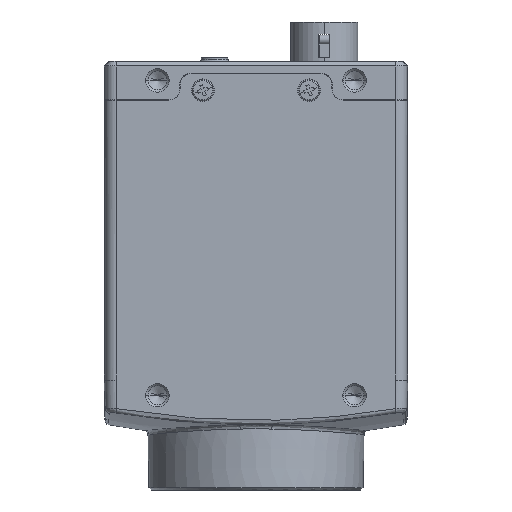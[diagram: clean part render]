
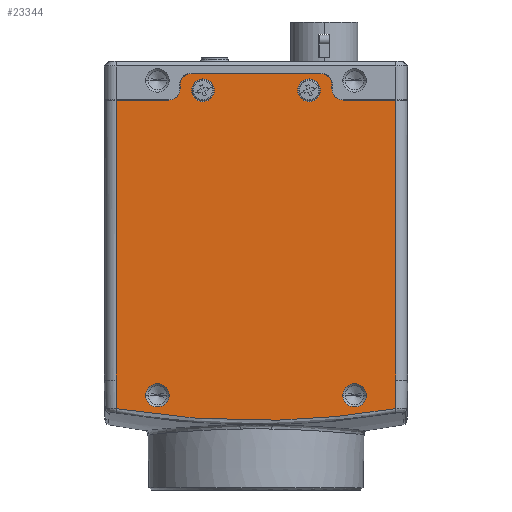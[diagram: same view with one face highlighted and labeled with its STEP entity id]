
A CAD part, front view. The second image highlights one B-rep face of the part: STEP entity #23344.
In plain terms, the highlighted planar face has unit normal (0, -1, 0).
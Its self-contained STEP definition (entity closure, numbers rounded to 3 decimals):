
#2055=CARTESIAN_POINT('',(6.9,-1.4,32.8));
#2056=DIRECTION('',(0.,1.,0.));
#2057=DIRECTION('',(1.,0.,0.));
#2058=AXIS2_PLACEMENT_3D('',#2055,#2056,#2057);
#3208=CARTESIAN_POINT('',(-0.014,-1.4,31.3));
#3220=CARTESIAN_POINT('',(9.9,-1.4,33.3));
#3221=DIRECTION('',(0.,-1.,0.));
#3222=DIRECTION('',(0.,0.,1.));
#3223=AXIS2_PLACEMENT_3D('',#3220,#3221,#3222);
#3225=CARTESIAN_POINT('',(26.9,-1.4,33.3));
#3226=DIRECTION('',(0.,-1.,0.));
#3227=DIRECTION('',(1.,0.,0.));
#3228=AXIS2_PLACEMENT_3D('',#3225,#3226,#3227);
#3230=DIRECTION('',(0.,0.,-1.));
#3231=VECTOR('',#3230,0.5);
#3232=CARTESIAN_POINT('',(28.4,-1.4,33.3));
#3233=LINE('',#3232,#3231);
#3234=DIRECTION('',(-1.,0.,0.));
#3235=VECTOR('',#3234,6.914);
#3236=CARTESIAN_POINT('',(36.814,-1.4,31.3));
#3237=LINE('',#3236,#3235);
#3238=DIRECTION('',(0.017,0.,1.));
#3239=VECTOR('',#3238,3.78);
#3240=CARTESIAN_POINT('',(36.748,-1.4,-9.38));
#3241=LINE('',#3240,#3239);
#3242=CARTESIAN_POINT('',(0.052,-1.4,-9.38));
#3243=CARTESIAN_POINT('',(0.689,-1.4,-9.488));
#3244=CARTESIAN_POINT('',(1.966,-1.4,-9.693));
#3245=CARTESIAN_POINT('',(3.886,-1.4,-9.968));
#3246=CARTESIAN_POINT('',(5.812,-1.4,-10.208));
#3247=CARTESIAN_POINT('',(7.742,-1.4,-10.414));
#3248=CARTESIAN_POINT('',(9.675,-1.4,-10.586));
#3249=CARTESIAN_POINT('',(11.611,-1.4,-10.724));
#3250=CARTESIAN_POINT('',(13.55,-1.4,-10.827));
#3251=CARTESIAN_POINT('',(15.489,-1.4,-10.896));
#3252=CARTESIAN_POINT('',(17.43,-1.4,-10.93));
#3253=CARTESIAN_POINT('',(19.371,-1.4,-10.93));
#3254=CARTESIAN_POINT('',(21.312,-1.4,-10.896));
#3255=CARTESIAN_POINT('',(23.251,-1.4,-10.827));
#3256=CARTESIAN_POINT('',(25.19,-1.4,-10.724));
#3257=CARTESIAN_POINT('',(27.126,-1.4,-10.586));
#3258=CARTESIAN_POINT('',(29.059,-1.4,-10.414));
#3259=CARTESIAN_POINT('',(30.989,-1.4,-10.208));
#3260=CARTESIAN_POINT('',(32.914,-1.4,-9.968));
#3261=CARTESIAN_POINT('',(34.835,-1.4,-9.693));
#3262=CARTESIAN_POINT('',(36.111,-1.4,-9.488));
#3263=CARTESIAN_POINT('',(36.748,-1.4,-9.38));
#3265=DIRECTION('',(-0.017,0.,1.));
#3266=VECTOR('',#3265,3.78);
#3267=CARTESIAN_POINT('',(0.052,-1.4,-9.38));
#3268=LINE('',#3267,#3266);
#3269=DIRECTION('',(0.,0.,1.));
#3270=VECTOR('',#3269,36.9);
#3271=CARTESIAN_POINT('',(-0.014,-1.4,-5.6));
#3272=LINE('',#3271,#3270);
#3273=DIRECTION('',(1.,0.,0.));
#3274=VECTOR('',#3273,6.914);
#3275=CARTESIAN_POINT('',(-0.014,-1.4,31.3));
#3276=LINE('',#3275,#3274);
#3277=DIRECTION('',(0.,0.,-1.));
#3278=VECTOR('',#3277,0.5);
#3279=CARTESIAN_POINT('',(8.4,-1.4,33.3));
#3280=LINE('',#3279,#3278);
#3281=CARTESIAN_POINT('',(5.4,-1.4,-7.6));
#3282=DIRECTION('',(0.,1.,0.));
#3283=DIRECTION('',(1.,0.,0.));
#3284=AXIS2_PLACEMENT_3D('',#3281,#3282,#3283);
#3286=CARTESIAN_POINT('',(5.4,-1.4,-7.6));
#3287=DIRECTION('',(0.,1.,0.));
#3288=DIRECTION('',(-1.,0.,0.));
#3289=AXIS2_PLACEMENT_3D('',#3286,#3287,#3288);
#3291=CARTESIAN_POINT('',(31.4,-1.4,-7.6));
#3292=DIRECTION('',(0.,1.,0.));
#3293=DIRECTION('',(1.,0.,0.));
#3294=AXIS2_PLACEMENT_3D('',#3291,#3292,#3293);
#3296=CARTESIAN_POINT('',(31.4,-1.4,-7.6));
#3297=DIRECTION('',(0.,1.,0.));
#3298=DIRECTION('',(-1.,0.,0.));
#3299=AXIS2_PLACEMENT_3D('',#3296,#3297,#3298);
#3301=CARTESIAN_POINT('',(25.4,-1.4,32.6));
#3302=DIRECTION('',(0.,-1.,0.));
#3303=DIRECTION('',(-1.,0.,0.));
#3304=AXIS2_PLACEMENT_3D('',#3301,#3302,#3303);
#3306=CARTESIAN_POINT('',(25.4,-1.4,32.6));
#3307=DIRECTION('',(0.,-1.,0.));
#3308=DIRECTION('',(1.,0.,0.));
#3309=AXIS2_PLACEMENT_3D('',#3306,#3307,#3308);
#3311=CARTESIAN_POINT('',(11.4,-1.4,32.6));
#3312=DIRECTION('',(0.,-1.,0.));
#3313=DIRECTION('',(-1.,0.,0.));
#3314=AXIS2_PLACEMENT_3D('',#3311,#3312,#3313);
#3316=CARTESIAN_POINT('',(11.4,-1.4,32.6));
#3317=DIRECTION('',(0.,-1.,0.));
#3318=DIRECTION('',(1.,0.,0.));
#3319=AXIS2_PLACEMENT_3D('',#3316,#3317,#3318);
#3341=DIRECTION('',(1.,0.,0.));
#3342=VECTOR('',#3341,17.);
#3343=CARTESIAN_POINT('',(9.9,-1.4,34.8));
#3344=LINE('',#3343,#3342);
#3366=CARTESIAN_POINT('',(29.9,-1.4,32.8));
#3367=DIRECTION('',(0.,1.,0.));
#3368=DIRECTION('',(0.,0.,-1.));
#3369=AXIS2_PLACEMENT_3D('',#3366,#3367,#3368);
#3377=CARTESIAN_POINT('',(36.814,-1.4,31.3));
#3379=DIRECTION('',(0.,0.,1.));
#3380=VECTOR('',#3379,36.9);
#3381=CARTESIAN_POINT('',(36.814,-1.4,-5.6));
#3382=LINE('',#3381,#3380);
#16766=VERTEX_POINT('',#3208);
#16769=VERTEX_POINT('',#3377);
#16772=CARTESIAN_POINT('',(-0.014,-1.4,-5.6));
#16773=VERTEX_POINT('',#16772);
#16774=CARTESIAN_POINT('',(36.814,-1.4,-5.6));
#16775=VERTEX_POINT('',#16774);
#16778=CARTESIAN_POINT('',(29.9,-1.4,31.3));
#16779=VERTEX_POINT('',#16778);
#16780=CARTESIAN_POINT('',(6.9,-1.4,31.3));
#16781=VERTEX_POINT('',#16780);
#16782=CARTESIAN_POINT('',(8.4,-1.4,32.8));
#16783=VERTEX_POINT('',#16782);
#16784=CARTESIAN_POINT('',(28.4,-1.4,32.8));
#16785=VERTEX_POINT('',#16784);
#16786=CARTESIAN_POINT('',(9.9,-1.4,34.8));
#16787=CARTESIAN_POINT('',(8.4,-1.4,33.3));
#16788=VERTEX_POINT('',#16786);
#16789=VERTEX_POINT('',#16787);
#16790=CARTESIAN_POINT('',(28.4,-1.4,33.3));
#16791=CARTESIAN_POINT('',(26.9,-1.4,34.8));
#16792=VERTEX_POINT('',#16790);
#16793=VERTEX_POINT('',#16791);
#16814=CARTESIAN_POINT('',(6.95,-1.4,-7.6));
#16815=CARTESIAN_POINT('',(3.85,-1.4,-7.6));
#16816=VERTEX_POINT('',#16814);
#16817=VERTEX_POINT('',#16815);
#16822=CARTESIAN_POINT('',(32.95,-1.4,-7.6));
#16823=CARTESIAN_POINT('',(29.85,-1.4,-7.6));
#16824=VERTEX_POINT('',#16822);
#16825=VERTEX_POINT('',#16823);
#16838=CARTESIAN_POINT('',(23.9,-1.4,32.6));
#16839=CARTESIAN_POINT('',(26.9,-1.4,32.6));
#16840=VERTEX_POINT('',#16838);
#16841=VERTEX_POINT('',#16839);
#16842=CARTESIAN_POINT('',(9.9,-1.4,32.6));
#16843=CARTESIAN_POINT('',(12.9,-1.4,32.6));
#16844=VERTEX_POINT('',#16842);
#16845=VERTEX_POINT('',#16843);
#16912=CARTESIAN_POINT('',(36.748,-1.4,-9.38));
#16913=VERTEX_POINT('',#16912);
#16914=CARTESIAN_POINT('',(0.052,-1.4,-9.38));
#16915=VERTEX_POINT('',#16914);
#23293=CARTESIAN_POINT('',(-1.6,-1.4,-11.1));
#23294=DIRECTION('',(0.,-1.,0.));
#23295=DIRECTION('',(1.,0.,0.));
#23296=AXIS2_PLACEMENT_3D('',#23293,#23294,#23295);
#23297=PLANE('',#23296);
#23299=ORIENTED_EDGE('',*,*,#23298,.F.);
#23301=ORIENTED_EDGE('',*,*,#23300,.T.);
#23303=ORIENTED_EDGE('',*,*,#23302,.F.);
#23304=ORIENTED_EDGE('',*,*,#21472,.T.);
#23306=ORIENTED_EDGE('',*,*,#23305,.F.);
#23307=ORIENTED_EDGE('',*,*,#21512,.F.);
#23309=ORIENTED_EDGE('',*,*,#23308,.F.);
#23311=ORIENTED_EDGE('',*,*,#23310,.F.);
#23312=ORIENTED_EDGE('',*,*,#23195,.F.);
#23313=ORIENTED_EDGE('',*,*,#23268,.T.);
#23314=ORIENTED_EDGE('',*,*,#23285,.T.);
#23315=ORIENTED_EDGE('',*,*,#21112,.T.);
#23316=ORIENTED_EDGE('',*,*,#21134,.F.);
#23317=ORIENTED_EDGE('',*,*,#21151,.F.);
#23318=EDGE_LOOP('',(#23299,#23301,#23303,#23304,#23306,#23307,#23309,#23311,
#23312,#23313,#23314,#23315,#23316,#23317));
#23319=FACE_OUTER_BOUND('',#23318,.F.);
#23321=ORIENTED_EDGE('',*,*,#23320,.F.);
#23323=ORIENTED_EDGE('',*,*,#23322,.F.);
#23324=EDGE_LOOP('',(#23321,#23323));
#23325=FACE_BOUND('',#23324,.F.);
#23327=ORIENTED_EDGE('',*,*,#23326,.F.);
#23329=ORIENTED_EDGE('',*,*,#23328,.F.);
#23330=EDGE_LOOP('',(#23327,#23329));
#23331=FACE_BOUND('',#23330,.F.);
#23333=ORIENTED_EDGE('',*,*,#23332,.T.);
#23335=ORIENTED_EDGE('',*,*,#23334,.T.);
#23336=EDGE_LOOP('',(#23333,#23335));
#23337=FACE_BOUND('',#23336,.F.);
#23339=ORIENTED_EDGE('',*,*,#23338,.T.);
#23341=ORIENTED_EDGE('',*,*,#23340,.T.);
#23342=EDGE_LOOP('',(#23339,#23341));
#23343=FACE_BOUND('',#23342,.F.);
#23344=ADVANCED_FACE('',(#23319,#23325,#23331,#23337,#23343),#23297,.T.);
#2059=CIRCLE('',#2058,1.5);
#3224=CIRCLE('',#3223,1.5);
#3229=CIRCLE('',#3228,1.5);
#3264=B_SPLINE_CURVE_WITH_KNOTS('',3,(#3242,#3243,#3244,#3245,#3246,#3247,#3248,
#3249,#3250,#3251,#3252,#3253,#3254,#3255,#3256,#3257,#3258,#3259,#3260,#3261,
#3262,#3263),.UNSPECIFIED.,.F.,.F.,(4,1,1,1,1,1,1,1,1,1,1,1,1,1,1,1,1,1,1,4),(
0.,0.053,0.105,0.158,0.211,
0.263,0.316,0.368,0.421,
0.474,0.526,0.579,0.632,
0.684,0.737,0.789,0.842,
0.895,0.947,1.),.UNSPECIFIED.);
#3285=CIRCLE('',#3284,1.55);
#3290=CIRCLE('',#3289,1.55);
#3295=CIRCLE('',#3294,1.55);
#3300=CIRCLE('',#3299,1.55);
#3305=CIRCLE('',#3304,1.5);
#3310=CIRCLE('',#3309,1.5);
#3315=CIRCLE('',#3314,1.5);
#3320=CIRCLE('',#3319,1.5);
#3370=CIRCLE('',#3369,1.5);
#21112=EDGE_CURVE('',#16766,#16781,#3276,.T.);
#21134=EDGE_CURVE('',#16783,#16781,#2059,.T.);
#21151=EDGE_CURVE('',#16789,#16783,#3280,.T.);
#21472=EDGE_CURVE('',#16792,#16785,#3233,.T.);
#21512=EDGE_CURVE('',#16769,#16779,#3237,.T.);
#23195=EDGE_CURVE('',#16915,#16913,#3264,.T.);
#23268=EDGE_CURVE('',#16915,#16773,#3268,.T.);
#23285=EDGE_CURVE('',#16773,#16766,#3272,.T.);
#23298=EDGE_CURVE('',#16788,#16789,#3224,.T.);
#23300=EDGE_CURVE('',#16788,#16793,#3344,.T.);
#23302=EDGE_CURVE('',#16792,#16793,#3229,.T.);
#23305=EDGE_CURVE('',#16779,#16785,#3370,.T.);
#23308=EDGE_CURVE('',#16775,#16769,#3382,.T.);
#23310=EDGE_CURVE('',#16913,#16775,#3241,.T.);
#23320=EDGE_CURVE('',#16816,#16817,#3285,.T.);
#23322=EDGE_CURVE('',#16817,#16816,#3290,.T.);
#23326=EDGE_CURVE('',#16824,#16825,#3295,.T.);
#23328=EDGE_CURVE('',#16825,#16824,#3300,.T.);
#23332=EDGE_CURVE('',#16840,#16841,#3305,.T.);
#23334=EDGE_CURVE('',#16841,#16840,#3310,.T.);
#23338=EDGE_CURVE('',#16844,#16845,#3315,.T.);
#23340=EDGE_CURVE('',#16845,#16844,#3320,.T.);
